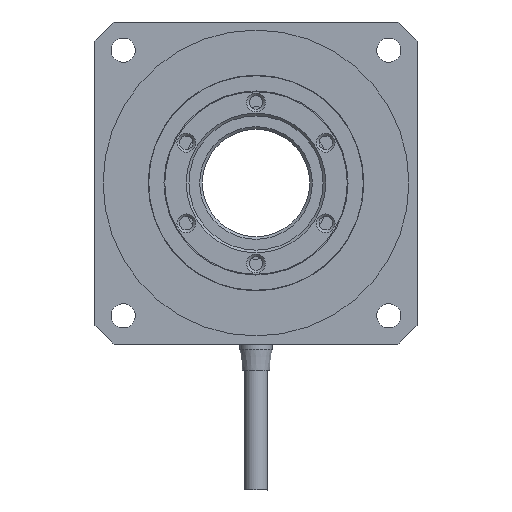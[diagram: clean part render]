
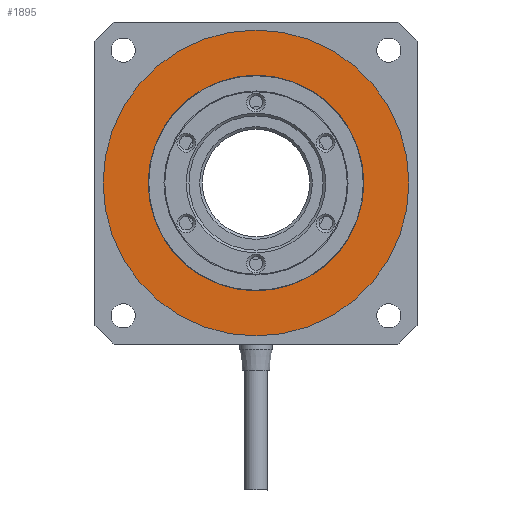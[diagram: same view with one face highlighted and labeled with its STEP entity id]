
A CAD part, left-side view. The second image highlights one B-rep face of the part: STEP entity #1895.
In plain terms, the highlighted planar face has unit normal (-1, 0, 0).
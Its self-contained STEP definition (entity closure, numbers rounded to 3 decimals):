
#1895=ADVANCED_FACE('',(#3121,#3122),#3123,.T.);
#3121=FACE_OUTER_BOUND('',#4228,.T.);
#3122=FACE_BOUND('',#4229,.T.);
#3123=PLANE('',#4230);
#4228=EDGE_LOOP('',(#6497));
#4229=EDGE_LOOP('',(#6498));
#4230=AXIS2_PLACEMENT_3D('',#6499,#6500,#6501);
#6497=ORIENTED_EDGE('',*,*,#7355,.T.);
#6498=ORIENTED_EDGE('',*,*,#7353,.F.);
#6499=CARTESIAN_POINT('',(0.,-24.3,0.0));
#6500=DIRECTION('',(-1.0,0.0,0.0));
#6501=DIRECTION('',(0.0,0.0,1.0));
#7353=EDGE_CURVE('',#8613,#8613,#8614,.T.);
#7355=EDGE_CURVE('',#8616,#8616,#8617,.T.);
#8613=VERTEX_POINT('',#11153);
#8614=CIRCLE('',#11154,20.1);
#8616=VERTEX_POINT('',#11156);
#8617=CIRCLE('',#11157,28.5);
#11153=CARTESIAN_POINT('',(0.0,0.0,20.1));
#11154=AXIS2_PLACEMENT_3D('',#12148,#12149,#12150);
#11156=CARTESIAN_POINT('',(0.,0.0,28.5));
#11157=AXIS2_PLACEMENT_3D('',#12151,#12152,#12153);
#12148=CARTESIAN_POINT('',(0.0,0.0,0.0));
#12149=DIRECTION('',(-1.0,0.0,0.0));
#12150=DIRECTION('',(0.0,0.0,1.0));
#12151=CARTESIAN_POINT('',(0.,0.0,0.0));
#12152=DIRECTION('',(-1.0,0.0,0.0));
#12153=DIRECTION('',(0.0,0.0,1.0));
